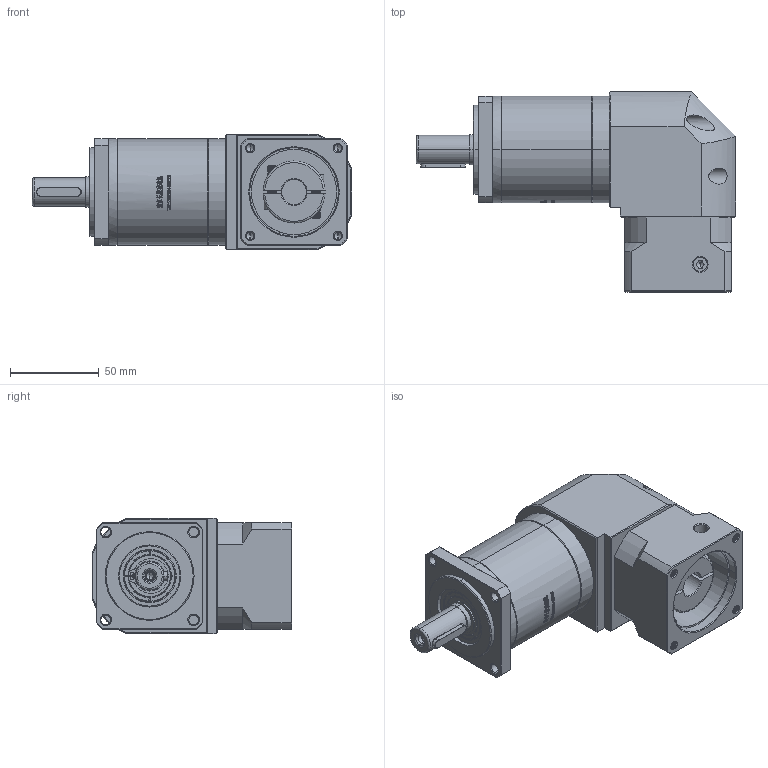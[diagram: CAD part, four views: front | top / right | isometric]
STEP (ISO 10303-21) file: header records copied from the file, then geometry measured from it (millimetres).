
FILE_DESCRIPTION (( 'STEP AP214' ), '1' );
FILE_NAME ('ZFR60-D16-L2-14-50-70-M5.STEP', '2022-04-20T09:04:42', ( '' ), ( 'Microsoft' ), 'SwSTEP 2.0', 'SolidWorks 2016', '' );
FILE_SCHEMA (( 'AUTOMOTIVE_DESIGN' ));
Length unit declared in the file: millimetre
Products named in the file (1): ZFR60-D16-L2-14-50-70-M5
Bounding box: 180 x 112.7 x 65 mm (x, y, z)
Volume: 587317.5 mm3; surface area: 82291.9 mm2
Topology: 5 solids, 6 shells, 2692 faces, 7316 edges, 4761 vertices
Faces by surface type: plane 1397, bspline 591, cylinder 402, cone 290, torus 12
Entity records: 149340 total; most frequent: CARTESIAN_POINT 57507, ORIENTED_EDGE 14588, DIRECTION 10442, EDGE_CURVE 7294, VERTEX_POINT 4761, VECTOR 4400, LINE 4400, AXIS2_PLACEMENT_3D 3021
